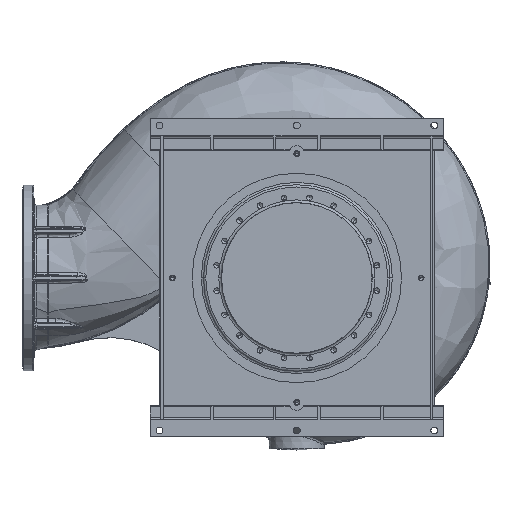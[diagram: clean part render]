
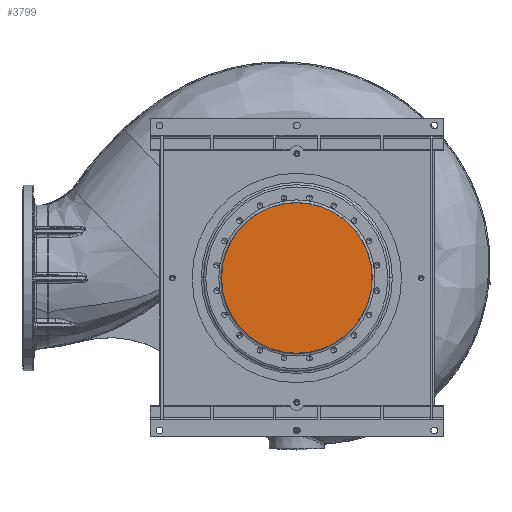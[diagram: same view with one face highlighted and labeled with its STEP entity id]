
A CAD part, front view. The second image highlights one B-rep face of the part: STEP entity #3799.
In plain terms, the highlighted planar face has unit normal (0, -1, 0).
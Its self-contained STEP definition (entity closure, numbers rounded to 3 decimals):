
#3799 = ADVANCED_FACE ( 'NONE', ( #117403 ), #86769, .F. ) ;
#11065 = DIRECTION ( 'NONE',  ( 1., 0., 0. ) ) ;
#19633 = CARTESIAN_POINT ( 'NONE',  ( 0., -654., 0. ) ) ;
#26111 = AXIS2_PLACEMENT_3D ( 'NONE', #19633, #106583, #32291 ) ;
#26423 = AXIS2_PLACEMENT_3D ( 'NONE', #73028, #72999, #72292 ) ;
#32291 = DIRECTION ( 'NONE',  ( 1., 0., 0. ) ) ;
#45454 = CARTESIAN_POINT ( 'NONE',  ( 287.5, -654., 0. ) ) ;
#67841 = ORIENTED_EDGE ( 'NONE', *, *, #160015, .F. ) ;
#72292 = DIRECTION ( 'NONE',  ( 1., 0., 0. ) ) ;
#72999 = DIRECTION ( 'NONE',  ( 0., 1., 0. ) ) ;
#73028 = CARTESIAN_POINT ( 'NONE',  ( 0., -654., 250. ) ) ;
#85825 = DIRECTION ( 'NONE',  ( 0., 1., 0. ) ) ;
#86769 = PLANE ( 'NONE',  #26423 ) ;
#106583 = DIRECTION ( 'NONE',  ( 0., 1., 0. ) ) ;
#117403 = FACE_OUTER_BOUND ( 'NONE', #132446, .T. ) ;
#125251 = AXIS2_PLACEMENT_3D ( 'NONE', #159571, #85825, #11065 ) ;
#130905 = VERTEX_POINT ( 'NONE', #45454 ) ;
#132446 = EDGE_LOOP ( 'NONE', ( #157306, #67841 ) ) ;
#134638 = CARTESIAN_POINT ( 'NONE',  ( -287.5, -654., 0. ) ) ;
#138048 = EDGE_CURVE ( 'NONE', #130905, #160866, #148228, .T. ) ;
#148228 = CIRCLE ( 'NONE', #26111, 287.5 ) ;
#157306 = ORIENTED_EDGE ( 'NONE', *, *, #138048, .F. ) ;
#159571 = CARTESIAN_POINT ( 'NONE',  ( 0., -654., 0. ) ) ;
#160015 = EDGE_CURVE ( 'NONE', #160866, #130905, #160865, .T. ) ;
#160865 = CIRCLE ( 'NONE', #125251, 287.5 ) ;
#160866 = VERTEX_POINT ( 'NONE', #134638 ) ;
